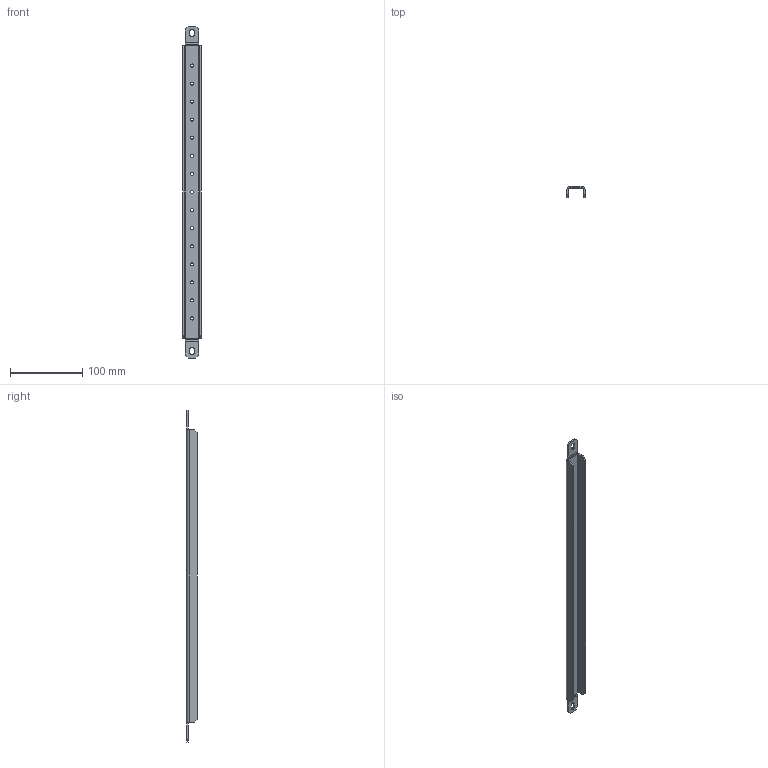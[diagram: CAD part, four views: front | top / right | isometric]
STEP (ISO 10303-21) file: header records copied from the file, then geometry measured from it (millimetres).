
FILE_DESCRIPTION (( 'STEP AP203' ), '1' );
FILE_NAME ('VB 60 G Ðåéêà äëÿ ãëóõîé äâåðè v1.STEP', '2022-08-10T15:41:07', ( '' ), ( '' ), 'SwSTEP 2.0', 'SolidWorks 2018', '' );
FILE_SCHEMA (( 'CONFIG_CONTROL_DESIGN' ));
Length unit declared in the file: millimetre
Products named in the file (1): VB 60 G Ðåéêà äëÿ ãëóõîé äâåðè v1
Bounding box: 25 x 14.5 x 459.31 mm (x, y, z)
Volume: 39880.5 mm3; surface area: 42382.9 mm2
Topology: 1 solids, 1 shells, 106 faces, 264 edges, 160 vertices
Faces by surface type: plane 66, cylinder 40
Entity records: 3249 total; most frequent: DIRECTION 558, CARTESIAN_POINT 531, ORIENTED_EDGE 528, EDGE_CURVE 264, AXIS2_PLACEMENT_3D 187, VECTOR 184, LINE 184, VERTEX_POINT 160
